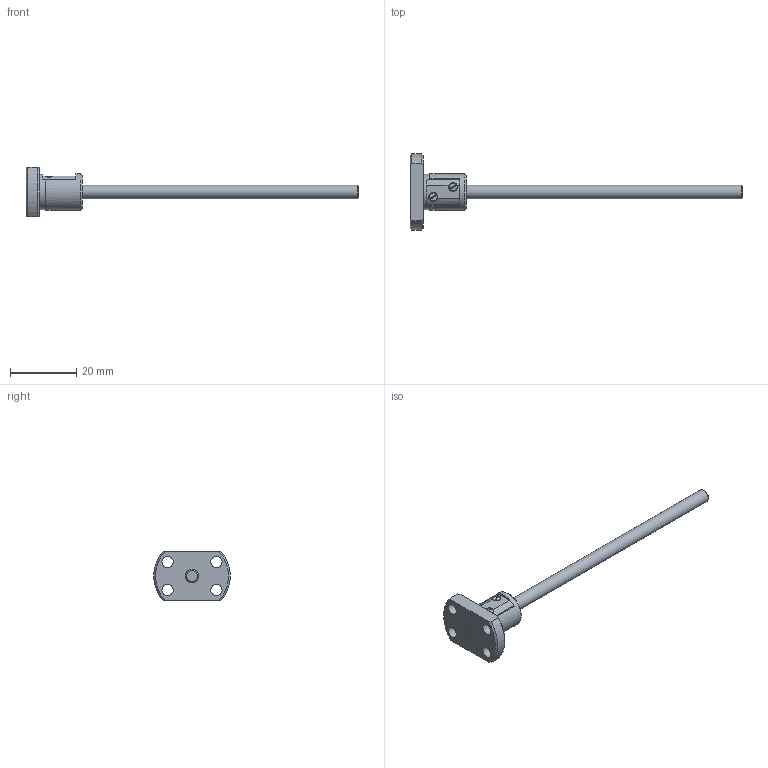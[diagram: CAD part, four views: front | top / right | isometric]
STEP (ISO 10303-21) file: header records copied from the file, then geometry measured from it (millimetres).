
FILE_DESCRIPTION( ( 'STEP AP203' ), '1' );
FILE_NAME( 'e:/temp/worker_95/temp/exporttempdir_5916_118_U7pba/format_0/PSR0401-100R100C5(0).stp', '2021-10-19T08:13:26', ( 'License CC BY-ND 4.0' ), ( 'CADENAS' ), ' ', 'PARTsolutions', ' ' );
FILE_SCHEMA( ( 'CONFIG_CONTROL_DESIGN' ) );
Length unit declared in the file: millimetre
Products named in the file (3): PSR0401-100R100C5(0); _PSR0401_shaft; _PSR0401_nut
Assembly tree (2 placements, depth 2):
  PSR0401-100R100C5(0)
    _PSR0401_shaft
    _PSR0401_nut
Bounding box: 100 x 22.93 x 15 mm (x, y, z)
Volume: 3336.4 mm3; surface area: 2988.2 mm2
Topology: 2 solids, 2 shells, 54 faces, 138 edges, 91 vertices
Faces by surface type: plane 25, cylinder 22, cone 7
Full cylindrical faces by diameter (mm): 2.7 x2, 3.4 x4, 4 x2, 10.6 x1, 11 x1
Entity records: 1716 total; most frequent: CARTESIAN_POINT 323, DIRECTION 278, ORIENTED_EDGE 242, EDGE_CURVE 121, AXIS2_PLACEMENT_3D 110, VERTEX_POINT 87, EDGE_LOOP 80, FACE_OUTER_BOUND 64
